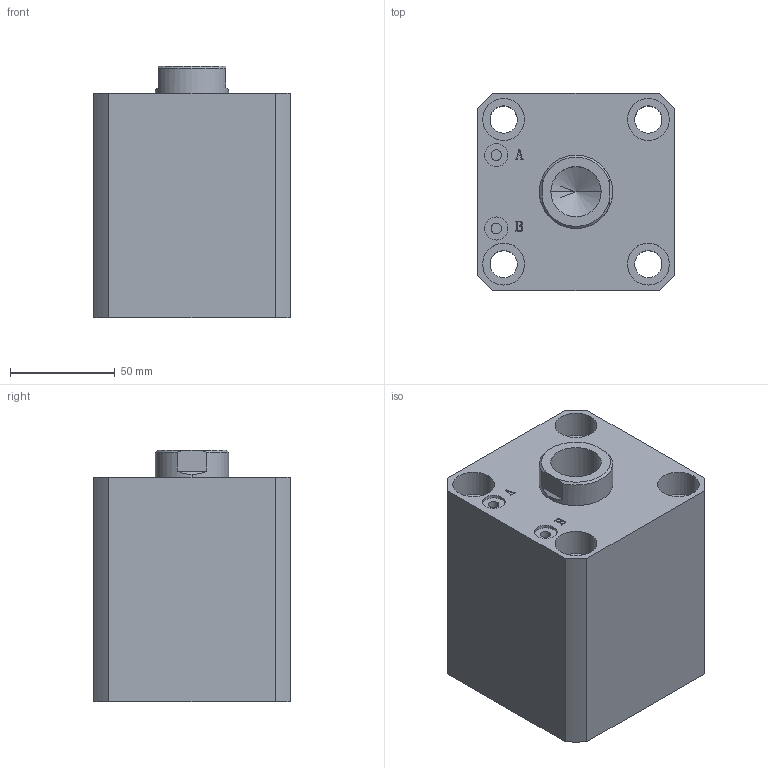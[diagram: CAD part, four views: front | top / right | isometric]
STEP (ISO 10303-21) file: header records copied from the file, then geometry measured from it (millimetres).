
FILE_DESCRIPTION (( 'STEP AP203' ), '1' );
FILE_NAME ('HTB-SDMA63-40N.STEP', '2019-10-08T01:03:55', ( '微软用户' ), ( '微软中国' ), 'SwSTEP 2.0', 'SolidWorks 2012', '' );
FILE_SCHEMA (( 'CONFIG_CONTROL_DESIGN' ));
Length unit declared in the file: millimetre
Products named in the file (3): HTB-SDMA63-40N; HTB-SDMA63-40N活塞杆; HTB-SDMA63-40掛极
Assembly tree (2 placements, depth 2):
  HTB-SDMA63-40N
    HTB-SDMA63-40掛极
    HTB-SDMA63-40N活塞杆
Bounding box: 94 x 94 x 120 mm (x, y, z)
Volume: 765530.6 mm3; surface area: 116631.3 mm2
Topology: 2 solids, 2 shells, 137 faces, 331 edges, 217 vertices
Faces by surface type: plane 65, cylinder 46, bspline 16, torus 6, cone 4
Entity records: 5070 total; most frequent: CARTESIAN_POINT 1576, ORIENTED_EDGE 658, DIRECTION 647, EDGE_CURVE 329, AXIS2_PLACEMENT_3D 232, VERTEX_POINT 217, LINE 183, VECTOR 183
